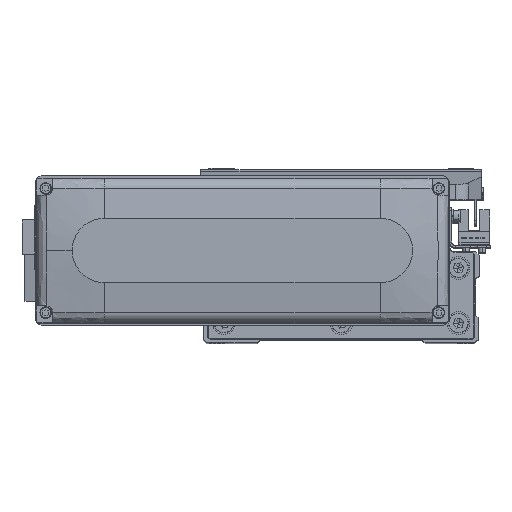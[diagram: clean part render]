
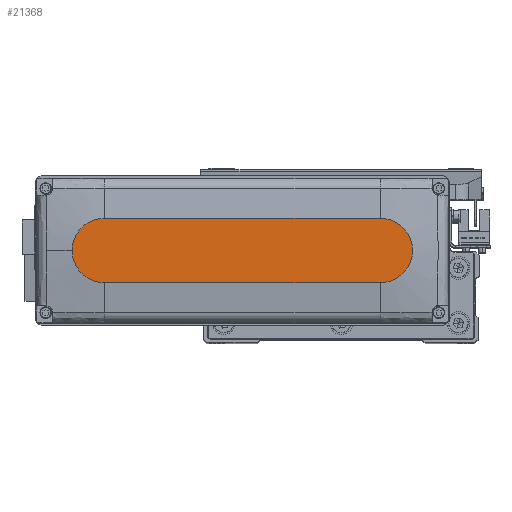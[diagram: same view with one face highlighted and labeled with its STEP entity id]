
A CAD part, top view. The second image highlights one B-rep face of the part: STEP entity #21368.
In plain terms, the highlighted planar face has unit normal (0, 0, 1).
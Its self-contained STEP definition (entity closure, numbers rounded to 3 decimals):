
#102 = VERTEX_POINT ( 'NONE', #21154 ) ;
#531 = CARTESIAN_POINT ( 'NONE',  ( 74., 0., 28.5 ) ) ;
#541 = DIRECTION ( 'NONE',  ( -1., 0., 0. ) ) ;
#1183 = VERTEX_POINT ( 'NONE', #3216 ) ;
#1410 = DIRECTION ( 'NONE',  ( 0., 0., 1. ) ) ;
#3216 = CARTESIAN_POINT ( 'NONE',  ( 60., -14., 28.5 ) ) ;
#4171 = CIRCLE ( 'NONE', #28078, 14. ) ;
#4560 = CARTESIAN_POINT ( 'NONE',  ( -60., 14., 28.5 ) ) ;
#5638 = CARTESIAN_POINT ( 'NONE',  ( 60., 0., 28.5 ) ) ;
#6142 = DIRECTION ( 'NONE',  ( 1., 0., 0. ) ) ;
#6379 = EDGE_CURVE ( 'NONE', #30051, #102, #4171, .T. ) ;
#6712 = CARTESIAN_POINT ( 'NONE',  ( -60., -14., 28.5 ) ) ;
#8009 = VERTEX_POINT ( 'NONE', #4560 ) ;
#8360 = DIRECTION ( 'NONE',  ( 1., 0., 0. ) ) ;
#9012 = EDGE_CURVE ( 'NONE', #13121, #1183, #11710, .T. ) ;
#9681 = CIRCLE ( 'NONE', #15174, 14. ) ;
#11585 = PLANE ( 'NONE',  #16010 ) ;
#11710 = LINE ( 'NONE', #24752, #24207 ) ;
#13121 = VERTEX_POINT ( 'NONE', #6712 ) ;
#14475 = DIRECTION ( 'NONE',  ( 1., 0., 0. ) ) ;
#15174 = AXIS2_PLACEMENT_3D ( 'NONE', #30745, #1410, #14475 ) ;
#16010 = AXIS2_PLACEMENT_3D ( 'NONE', #24617, #37668, #8360 ) ;
#16349 = EDGE_CURVE ( 'NONE', #1183, #30051, #40108, .T. ) ;
#16791 = LINE ( 'NONE', #29856, #40771 ) ;
#17924 = ORIENTED_EDGE ( 'NONE', *, *, #31917, .T. ) ;
#18708 = DIRECTION ( 'NONE',  ( 0., 0., 1. ) ) ;
#21154 = CARTESIAN_POINT ( 'NONE',  ( 60., 14., 28.5 ) ) ;
#21368 = ADVANCED_FACE ( 'NONE', ( #40908 ), #11585, .T. ) ;
#21478 = ORIENTED_EDGE ( 'NONE', *, *, #26371, .T. ) ;
#22410 = CARTESIAN_POINT ( 'NONE',  ( 60., 0., 28.5 ) ) ;
#22951 = ORIENTED_EDGE ( 'NONE', *, *, #16349, .T. ) ;
#23907 = ORIENTED_EDGE ( 'NONE', *, *, #6379, .T. ) ;
#24207 = VECTOR ( 'NONE', #37809, 1000. ) ;
#24617 = CARTESIAN_POINT ( 'NONE',  ( 0., 0., 28.5 ) ) ;
#24752 = CARTESIAN_POINT ( 'NONE',  ( -60., -14., 28.5 ) ) ;
#26371 = EDGE_CURVE ( 'NONE', #102, #8009, #16791, .T. ) ;
#27124 = AXIS2_PLACEMENT_3D ( 'NONE', #22410, #35462, #6142 ) ;
#28078 = AXIS2_PLACEMENT_3D ( 'NONE', #5638, #18708, #31757 ) ;
#29856 = CARTESIAN_POINT ( 'NONE',  ( -60., 14., 28.5 ) ) ;
#30051 = VERTEX_POINT ( 'NONE', #531 ) ;
#30745 = CARTESIAN_POINT ( 'NONE',  ( -60., 0., 28.5 ) ) ;
#31757 = DIRECTION ( 'NONE',  ( 1., 0., 0. ) ) ;
#31917 = EDGE_CURVE ( 'NONE', #8009, #13121, #9681, .T. ) ;
#35462 = DIRECTION ( 'NONE',  ( 0., 0., 1. ) ) ;
#36212 = EDGE_LOOP ( 'NONE', ( #21478, #17924, #41570, #22951, #23907 ) ) ;
#37668 = DIRECTION ( 'NONE',  ( 0., 0., 1. ) ) ;
#37809 = DIRECTION ( 'NONE',  ( 1., 0., 0. ) ) ;
#40108 = CIRCLE ( 'NONE', #27124, 14. ) ;
#40771 = VECTOR ( 'NONE', #541, 1000. ) ;
#40908 = FACE_OUTER_BOUND ( 'NONE', #36212, .T. ) ;
#41570 = ORIENTED_EDGE ( 'NONE', *, *, #9012, .T. ) ;
